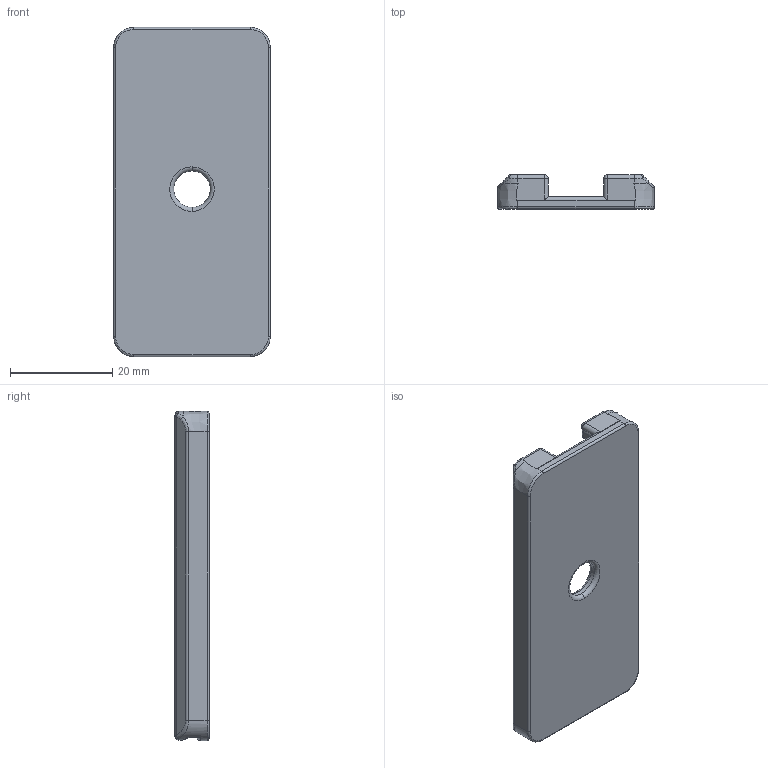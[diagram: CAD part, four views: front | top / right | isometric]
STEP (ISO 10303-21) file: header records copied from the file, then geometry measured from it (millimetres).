
FILE_DESCRIPTION(/* description */ ('STEP AP214'),/* implementation_level */ '2;1');
FILE_NAME(/* name */ 'D:\Ivan''s Printed Mag\Stl\Ivan''s Standard Mag Baseplate.stp',/* time_stamp */ '2019-01-27T20:55:21-06:00',/* author */ ('johne'),/* organization */ (''),/* preprocessor_version */ 'ST-DEVELOPER v16.13',/* originating_system */ 'Autodesk Inventor 2018',/* authorisation */ '');
FILE_SCHEMA (('AUTOMOTIVE_DESIGN { 1 0 10303 214 3 1 1 }'));
Length unit declared in the file: millimetre
Products named in the file (1): DefDist_Cuomo_AR15_30_Mag_Base_Plate
Bounding box: 30.68 x 6.68 x 64.52 mm (x, y, z)
Volume: 6239.1 mm3; surface area: 5541.7 mm2
Topology: 1 solids, 1 shells, 101 faces, 252 edges, 151 vertices
Faces by surface type: cylinder 38, plane 25, bspline 16, torus 16, sphere 6
Full cylindrical faces by diameter (mm): 7.137 x1
Entity records: 5611 total; most frequent: CARTESIAN_POINT 3261, ORIENTED_EDGE 498, DIRECTION 481, EDGE_CURVE 249, AXIS2_PLACEMENT_3D 193, VERTEX_POINT 151, EDGE_LOOP 104, FACE_OUTER_BOUND 101
